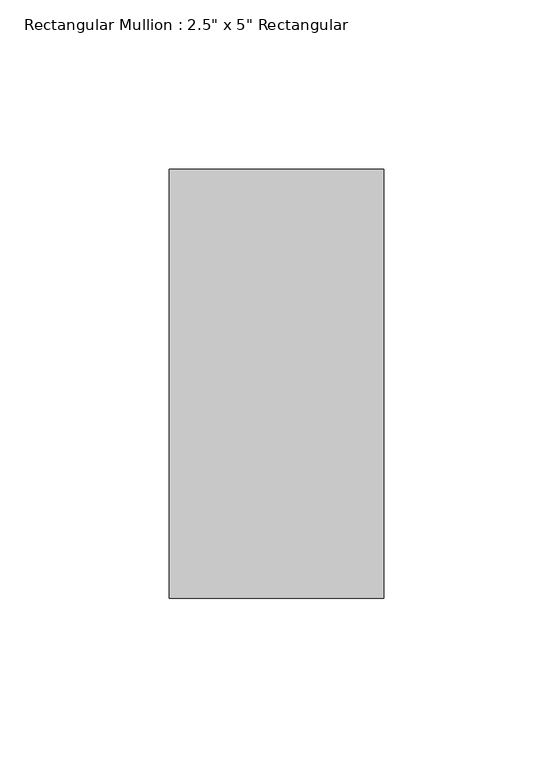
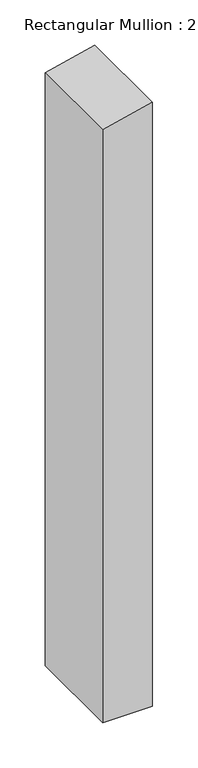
"""IFC4 building model written with IfcOpenShell, lengths in millimetres: member geometry."""

from ifc_helpers import new_model, si_unit, frame, origin, place, context, project, spatial, polyline, outline, extrude, source, transform, mapped, element, save


def member_badecc6f(model_context):
    return source(origin(), model_context, "Body", "SweptSolid", [
        extrude(outline(polyline([(0.0, 0.0), (-14.9903166, -63.5), (-814.9824023, -63.5), (-814.9824023, 0.0), (0.0, 0.0)])), frame((0.0, -63.5, 0.0), z_axis=(0.0, 1.0, 0.0), x_axis=(0.0, 0.0, 1.0)), (0.0, 0.0, 1.0), 127.0),
    ])


if __name__ == "__main__":
    model = new_model("IFC4")
    model_context = context("Model", 3, world=origin())
    ifc_project = project(units=[si_unit("LENGTHUNIT", "METRE", prefix="MILLI")], contexts=[model_context])
    site = spatial("IfcSite", under=ifc_project)
    building = spatial("IfcBuilding", under=site)
    placement = place(None, origin())
    member_shape = member_badecc6f(model_context)
    element("IfcMember", 1, ObjectType="Rectangular Mullion : 2.5\" x 5\" Rectangular", at=placement, inside=building, context=model_context, shape_type="MappedRepresentation", body=[
        mapped(member_shape, transform((0.0, 0.0, 0.0), x_axis=(1.0, 0.0, 0.0), y_axis=(0.0, 1.0, 0.0), z_axis=(0.0, 0.0, 1.0))),
    ])
    save(model, "model.ifc")
